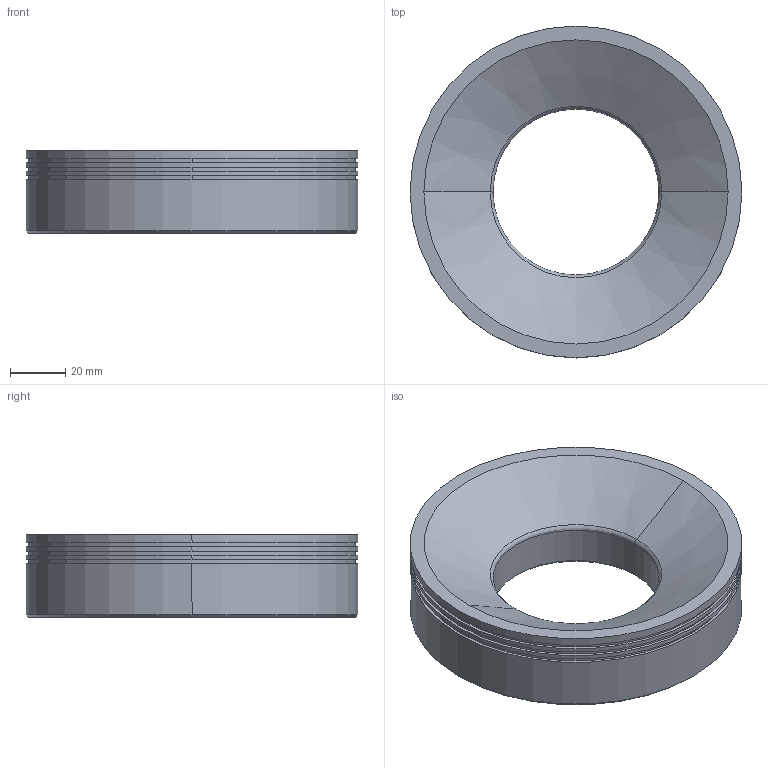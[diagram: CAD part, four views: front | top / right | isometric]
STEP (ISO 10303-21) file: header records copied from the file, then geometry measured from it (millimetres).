
FILE_DESCRIPTION((''),'2;1');
FILE_NAME('DRL7030','2020-03-28T',('ASUS'),(''),'PRO/ENGINEER BY PARAMETRIC TECHNOLOGY CORPORATION, 2008380','PRO/ENGINEER BY PARAMETRIC TECHNOLOGY CORPORATION, 2008380','');
FILE_SCHEMA(('CONFIG_CONTROL_DESIGN'));
Length unit declared in the file: millimetre
Products named in the file (1): DRL7030
Bounding box: 120 x 120 x 30 mm (x, y, z)
Volume: 208844.8 mm3; surface area: 34529.2 mm2
Topology: 1 solids, 5 shells, 68 faces, 152 edges, 92 vertices
Faces by surface type: cylinder 32, cone 22, plane 12, torus 2
Entity records: 1901 total; most frequent: DIRECTION 372, CARTESIAN_POINT 305, ORIENTED_EDGE 272, AXIS2_PLACEMENT_3D 159, EDGE_CURVE 144, VERTEX_POINT 92, CIRCLE 90, EDGE_LOOP 84
